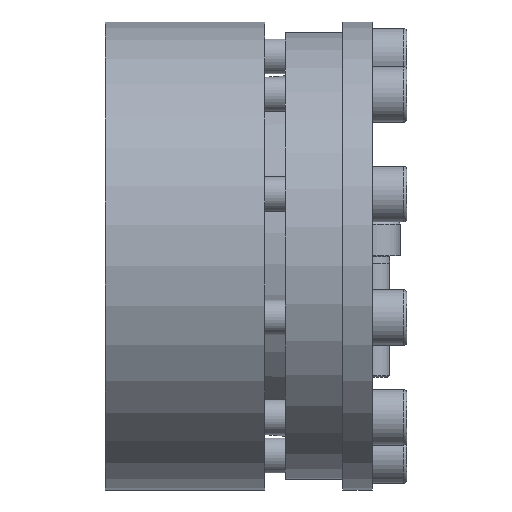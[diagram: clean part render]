
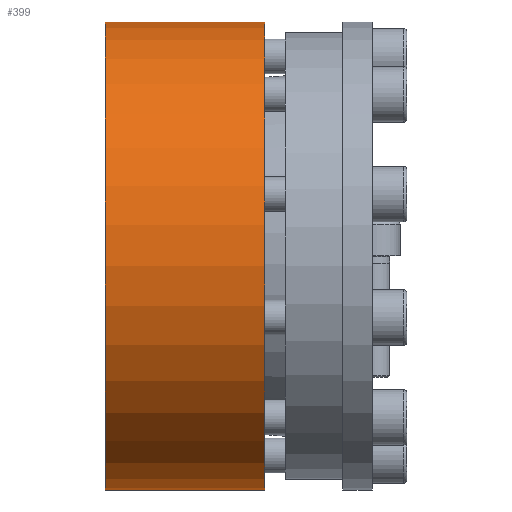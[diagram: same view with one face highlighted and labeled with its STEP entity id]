
A CAD part, left-side view. The second image highlights one B-rep face of the part: STEP entity #399.
In plain terms, the highlighted cylindrical face has radius 67.5 mm (diameter 135 mm), a partial arc.
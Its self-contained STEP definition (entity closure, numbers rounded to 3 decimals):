
#399 = ADVANCED_FACE( '', ( #639 ), #640, .T. );
#639 = FACE_OUTER_BOUND( '', #827, .T. );
#640 = CYLINDRICAL_SURFACE( '', #828, 67.5 );
#827 = EDGE_LOOP( '', ( #1097, #1098, #1099, #1100 ) );
#828 = AXIS2_PLACEMENT_3D( '', #1101, #1102, #1103 );
#1097 = ORIENTED_EDGE( '', *, *, #1430, .F. );
#1098 = ORIENTED_EDGE( '', *, *, #1437, .T. );
#1099 = ORIENTED_EDGE( '', *, *, #1442, .T. );
#1100 = ORIENTED_EDGE( '', *, *, #1402, .T. );
#1101 = CARTESIAN_POINT( '', ( 0., -60., 0. ) );
#1102 = DIRECTION( '', ( 0., 1., 0. ) );
#1103 = DIRECTION( '', ( 0., 0., -1. ) );
#1402 = EDGE_CURVE( '', #1555, #1553, #1556, .T. );
#1430 = EDGE_CURVE( '', #1606, #1553, #1608, .T. );
#1437 = EDGE_CURVE( '', #1606, #1619, #1621, .F. );
#1442 = EDGE_CURVE( '', #1619, #1555, #1629, .T. );
#1553 = VERTEX_POINT( '', #1707 );
#1555 = VERTEX_POINT( '', #1710 );
#1556 = LINE( '', #1711, #1712 );
#1606 = VERTEX_POINT( '', #1768 );
#1608 = CIRCLE( '', #1771, 67.5 );
#1619 = VERTEX_POINT( '', #1786 );
#1621 = LINE( '', #1789, #1790 );
#1629 = CIRCLE( '', #1801, 67.5 );
#1707 = CARTESIAN_POINT( '', ( 22.138, 31., 63.766 ) );
#1710 = CARTESIAN_POINT( '', ( 22.138, 77., 63.766 ) );
#1711 = CARTESIAN_POINT( '', ( 22.138, -60., 63.766 ) );
#1712 = VECTOR( '', #1859, 1000. );
#1768 = CARTESIAN_POINT( '', ( 19.571, 31., 64.601 ) );
#1771 = AXIS2_PLACEMENT_3D( '', #1930, #1931, #1932 );
#1786 = CARTESIAN_POINT( '', ( 19.571, 77., 64.601 ) );
#1789 = CARTESIAN_POINT( '', ( 19.571, -60., 64.601 ) );
#1790 = VECTOR( '', #1944, 1000. );
#1801 = AXIS2_PLACEMENT_3D( '', #1951, #1952, #1953 );
#1859 = DIRECTION( '', ( 0., -1., 0. ) );
#1930 = CARTESIAN_POINT( '', ( 0., 31., 0. ) );
#1931 = DIRECTION( '', ( 0., -1., 0. ) );
#1932 = DIRECTION( '', ( 0., 0., -1. ) );
#1944 = DIRECTION( '', ( 0., -1., 0. ) );
#1951 = CARTESIAN_POINT( '', ( 0., 77., 0. ) );
#1952 = DIRECTION( '', ( 0., -1., 0. ) );
#1953 = DIRECTION( '', ( 0., 0., -1. ) );
